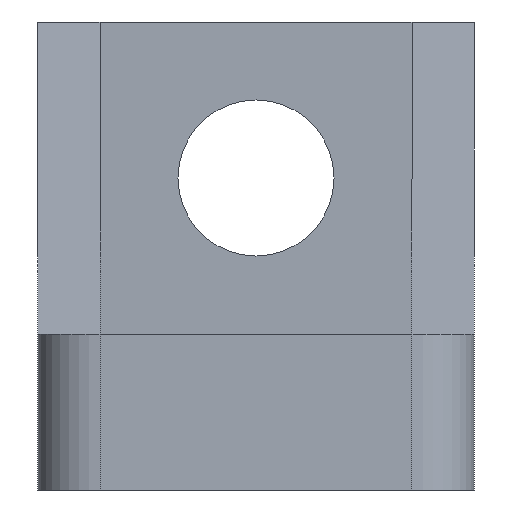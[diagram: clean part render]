
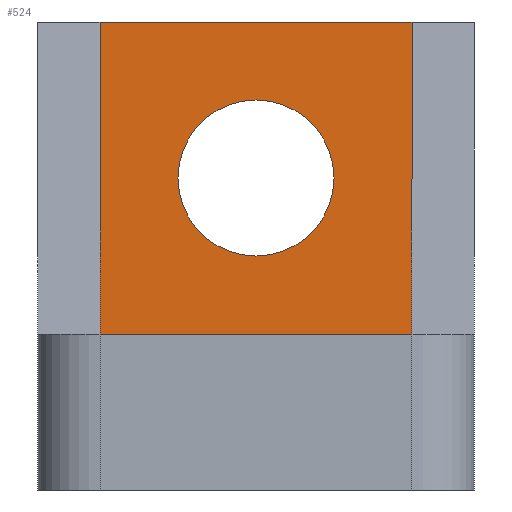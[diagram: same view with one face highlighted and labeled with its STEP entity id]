
A CAD part, left-side view. The second image highlights one B-rep face of the part: STEP entity #524.
In plain terms, the highlighted planar face has unit normal (-1, 0, 0).
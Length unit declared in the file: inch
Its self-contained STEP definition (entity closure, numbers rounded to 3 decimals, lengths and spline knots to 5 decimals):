
#3 = CIRCLE ( 'NONE', #292, 0.125 ) ;
#21 = ORIENTED_EDGE ( 'NONE', *, *, #316, .T. ) ;
#23 = CARTESIAN_POINT ( 'NONE',  ( 0.5875, -0.125, 0.5 ) ) ;
#35 = EDGE_CURVE ( 'NONE', #342, #503, #387, .T. ) ;
#39 = CARTESIAN_POINT ( 'NONE',  ( 0.5875, 0.25, 0.75 ) ) ;
#40 = LINE ( 'NONE', #536, #330 ) ;
#53 = DIRECTION ( 'NONE',  ( 0., -1., 0. ) ) ;
#55 = LINE ( 'NONE', #739, #365 ) ;
#101 = CARTESIAN_POINT ( 'NONE',  ( 0.5875, 0.35, 0.75 ) ) ;
#120 = EDGE_LOOP ( 'NONE', ( #584, #618 ) ) ;
#134 = CARTESIAN_POINT ( 'NONE',  ( 0.5875, -0.25, 0.25 ) ) ;
#137 = VERTEX_POINT ( 'NONE', #493 ) ;
#139 = CARTESIAN_POINT ( 'NONE',  ( 0.5875, 0., 0.5 ) ) ;
#141 = DIRECTION ( 'NONE',  ( -1., 0., 0. ) ) ;
#145 = CARTESIAN_POINT ( 'NONE',  ( 0.5875, -0.25, 0.75 ) ) ;
#150 = PLANE ( 'NONE',  #171 ) ;
#152 = DIRECTION ( 'NONE',  ( 0., -1., 0. ) ) ;
#153 = DIRECTION ( 'NONE',  ( 0., 1., 0. ) ) ;
#163 = VERTEX_POINT ( 'NONE', #134 ) ;
#171 = AXIS2_PLACEMENT_3D ( 'NONE', #101, #449, #153 ) ;
#180 = VERTEX_POINT ( 'NONE', #145 ) ;
#203 = CARTESIAN_POINT ( 'NONE',  ( 0.5875, 0.125, 0.5 ) ) ;
#207 = ORIENTED_EDGE ( 'NONE', *, *, #432, .T. ) ;
#211 = DIRECTION ( 'NONE',  ( 0., -1., 0. ) ) ;
#235 = ORIENTED_EDGE ( 'NONE', *, *, #412, .F. ) ;
#282 = VECTOR ( 'NONE', #670, 39.37008 ) ;
#286 = CARTESIAN_POINT ( 'NONE',  ( 0.5875, 0., 0.5 ) ) ;
#292 = AXIS2_PLACEMENT_3D ( 'NONE', #286, #383, #53 ) ;
#314 = CARTESIAN_POINT ( 'NONE',  ( 0.5875, 0.35, 0.75 ) ) ;
#316 = EDGE_CURVE ( 'NONE', #541, #137, #40, .T. ) ;
#324 = CARTESIAN_POINT ( 'NONE',  ( 0.5875, 0.35, 0.25 ) ) ;
#330 = VECTOR ( 'NONE', #458, 39.37008 ) ;
#342 = VERTEX_POINT ( 'NONE', #23 ) ;
#348 = DIRECTION ( 'NONE',  ( 0., 0., 1. ) ) ;
#351 = EDGE_CURVE ( 'NONE', #503, #342, #3, .T. ) ;
#352 = EDGE_LOOP ( 'NONE', ( #546, #235, #21, #207 ) ) ;
#361 = AXIS2_PLACEMENT_3D ( 'NONE', #139, #141, #152 ) ;
#365 = VECTOR ( 'NONE', #348, 39.37008 ) ;
#379 = FACE_BOUND ( 'NONE', #120, .T. ) ;
#383 = DIRECTION ( 'NONE',  ( -1., 0., 0. ) ) ;
#387 = CIRCLE ( 'NONE', #361, 0.125 ) ;
#412 = EDGE_CURVE ( 'NONE', #541, #180, #434, .T. ) ;
#431 = VECTOR ( 'NONE', #211, 39.37008 ) ;
#432 = EDGE_CURVE ( 'NONE', #137, #163, #579, .T. ) ;
#434 = LINE ( 'NONE', #314, #282 ) ;
#449 = DIRECTION ( 'NONE',  ( 1., 0., 0. ) ) ;
#458 = DIRECTION ( 'NONE',  ( 0., 0., -1. ) ) ;
#493 = CARTESIAN_POINT ( 'NONE',  ( 0.5875, 0.25, 0.25 ) ) ;
#503 = VERTEX_POINT ( 'NONE', #203 ) ;
#524 = ADVANCED_FACE ( 'NONE', ( #379, #544 ), #150, .F. ) ;
#536 = CARTESIAN_POINT ( 'NONE',  ( 0.5875, 0.25, 0.25 ) ) ;
#541 = VERTEX_POINT ( 'NONE', #39 ) ;
#544 = FACE_OUTER_BOUND ( 'NONE', #352, .T. ) ;
#546 = ORIENTED_EDGE ( 'NONE', *, *, #669, .T. ) ;
#579 = LINE ( 'NONE', #324, #431 ) ;
#584 = ORIENTED_EDGE ( 'NONE', *, *, #35, .F. ) ;
#618 = ORIENTED_EDGE ( 'NONE', *, *, #351, .F. ) ;
#669 = EDGE_CURVE ( 'NONE', #163, #180, #55, .T. ) ;
#670 = DIRECTION ( 'NONE',  ( 0., -1., 0. ) ) ;
#739 = CARTESIAN_POINT ( 'NONE',  ( 0.5875, -0.25, 0.25 ) ) ;
